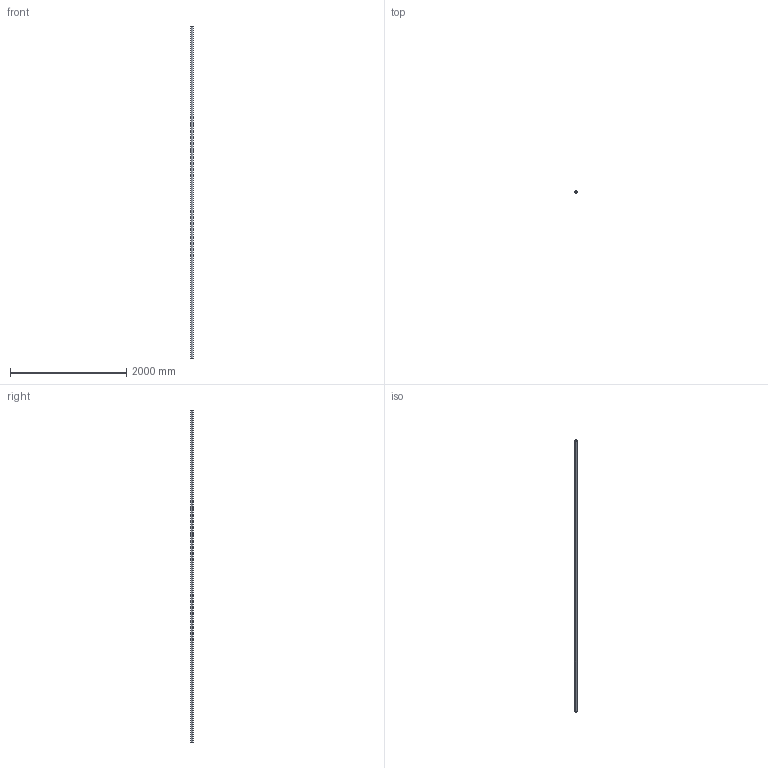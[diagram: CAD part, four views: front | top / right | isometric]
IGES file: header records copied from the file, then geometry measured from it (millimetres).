
Start section: SolidWorks IGES file using analytic representation for surfaces
Global section: file name: C:\Users\IanO\Desktop\L1771_v2\L1771.40_v2\L1771.40_v2_20230705_IGES\L1771.40-5700.igs; native system: SolidWorks 2019; preprocessor: SolidWorks 2019; author: IanO; date: 230705.163314; units: millimetre
Bounding box: 40 x 40 x 5700 mm (x, y, z)
Surface area: 1218963.1 mm2 (no closed solid volume)
Topology: 0 solids, 0 shells, 6 faces, 272 edges, 272 vertices
Faces by surface type: revolution 4, bspline 2
